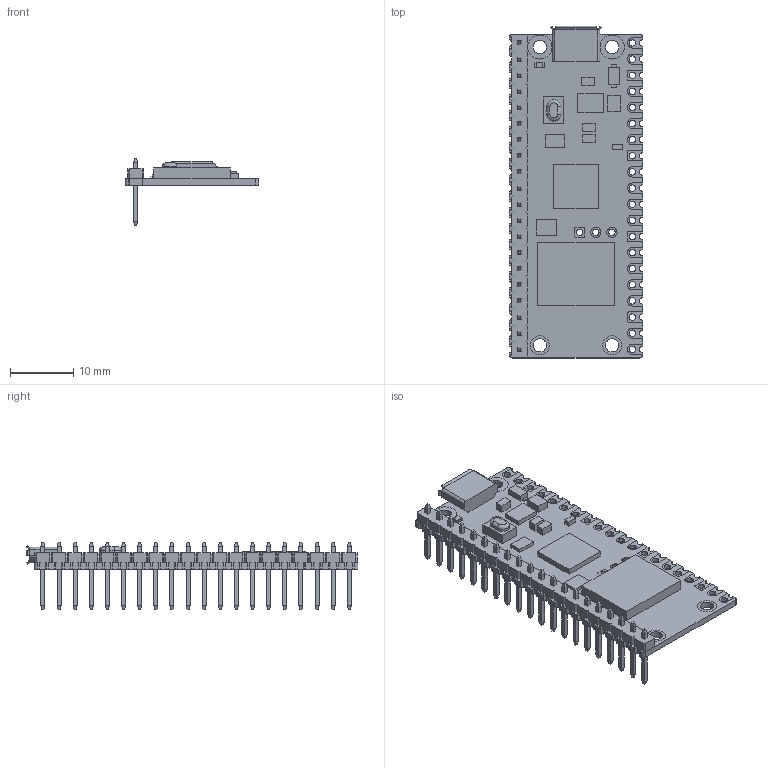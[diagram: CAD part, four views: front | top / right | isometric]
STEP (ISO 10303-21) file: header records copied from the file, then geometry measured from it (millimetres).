
FILE_DESCRIPTION(('FreeCAD Model'),'2;1');
FILE_NAME('Open CASCADE Shape Model','2025-05-08T09:29:03',( 'Peter S. Hollander'),('https://gitlab.com/recursivenomad/'), 'Open CASCADE STEP processor 7.6','FreeCAD','Unknown');
FILE_SCHEMA(('AUTOMOTIVE_DESIGN { 1 0 10303 214 1 1 1 1 }'));
Length unit declared in the file: millimetre
Products named in the file (3): RaspberryPi_Pico_W_AddedHeaders_H2.54mm_KiCad; RaspberryPi_Pico_W_Module_KiCad; RaspberryPi_Pico_Header_Breakaway_H2.54mm_KiCad
Bounding box: 21 x 52.3 x 10.53 mm (x, y, z)
Volume: 1734.7 mm3; surface area: 3643.2 mm2
Topology: 2 solids, 2 shells, 955 faces, 2577 edges, 1704 vertices
Faces by surface type: plane 834, cylinder 119, torus 2
Full cylindrical faces by diameter (mm): 1 x43, 2.1 x4
Entity records: 19956 total; most frequent: ORIENTED_EDGE 4490, CARTESIAN_POINT 3294, EDGE_CURVE 2577, LINE 1853, VERTEX_POINT 1704, FACE_BOUND 1127, EDGE_LOOP 1127, AXIS2_PLACEMENT_3D 984
